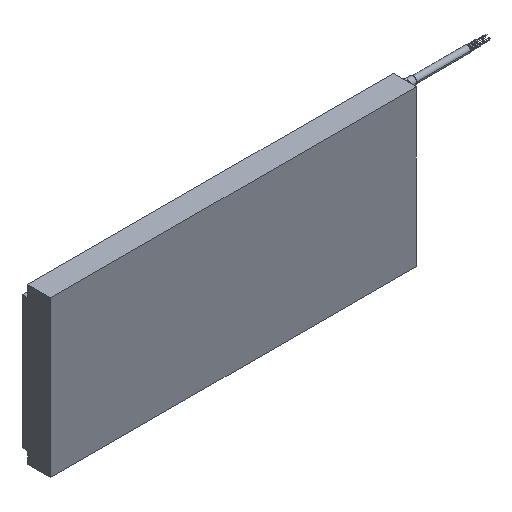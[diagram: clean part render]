
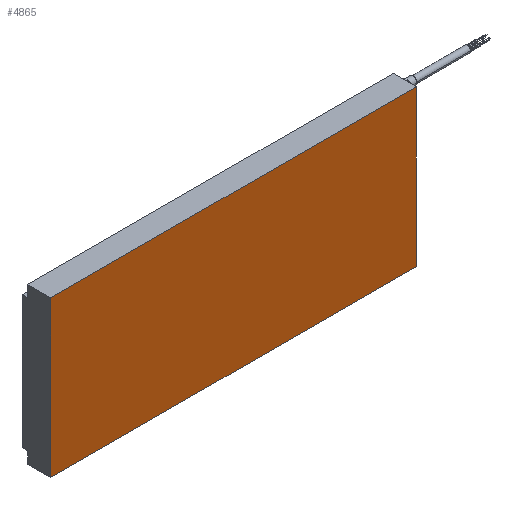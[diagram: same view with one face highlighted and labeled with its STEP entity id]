
A CAD part, isometric view. The second image highlights one B-rep face of the part: STEP entity #4865.
In plain terms, the highlighted planar face has unit normal (0, -1, 0).
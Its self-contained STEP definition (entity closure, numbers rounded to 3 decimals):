
#29=DIRECTION('',(0.,0.,-1.));
#30=VECTOR('',#29,235.);
#31=CARTESIAN_POINT('',(-276.1,0.,117.5));
#32=LINE('',#31,#30);
#33=DIRECTION('',(1.,0.,0.));
#34=VECTOR('',#33,552.2);
#35=CARTESIAN_POINT('',(-276.1,0.,-117.5));
#36=LINE('',#35,#34);
#37=DIRECTION('',(1.,0.,0.));
#38=VECTOR('',#37,552.2);
#39=CARTESIAN_POINT('',(-276.1,0.,117.5));
#40=LINE('',#39,#38);
#2729=DIRECTION('',(0.,0.,-1.));
#2730=VECTOR('',#2729,235.);
#2731=CARTESIAN_POINT('',(276.1,0.,117.5));
#2732=LINE('',#2731,#2730);
#3697=CARTESIAN_POINT('',(-276.1,0.,-117.5));
#3699=VERTEX_POINT('',#3697);
#3711=CARTESIAN_POINT('',(-276.1,0.,117.5));
#3712=VERTEX_POINT('',#3711);
#3713=CARTESIAN_POINT('',(276.1,0.,-117.5));
#3715=VERTEX_POINT('',#3713);
#3727=CARTESIAN_POINT('',(276.1,0.,117.5));
#3728=VERTEX_POINT('',#3727);
#4852=CARTESIAN_POINT('',(-276.1,0.,117.5));
#4853=DIRECTION('',(0.,-1.,0.));
#4854=DIRECTION('',(0.,0.,-1.));
#4855=AXIS2_PLACEMENT_3D('',#4852,#4853,#4854);
#4856=PLANE('',#4855);
#4857=ORIENTED_EDGE('',*,*,#4832,.F.);
#4859=ORIENTED_EDGE('',*,*,#4858,.T.);
#4861=ORIENTED_EDGE('',*,*,#4860,.T.);
#4862=ORIENTED_EDGE('',*,*,#4843,.F.);
#4863=EDGE_LOOP('',(#4857,#4859,#4861,#4862));
#4864=FACE_OUTER_BOUND('',#4863,.F.);
#4865=ADVANCED_FACE('',(#4864),#4856,.T.);
#4832=EDGE_CURVE('',#3712,#3699,#32,.T.);
#4843=EDGE_CURVE('',#3699,#3715,#36,.T.);
#4858=EDGE_CURVE('',#3712,#3728,#40,.T.);
#4860=EDGE_CURVE('',#3728,#3715,#2732,.T.);
